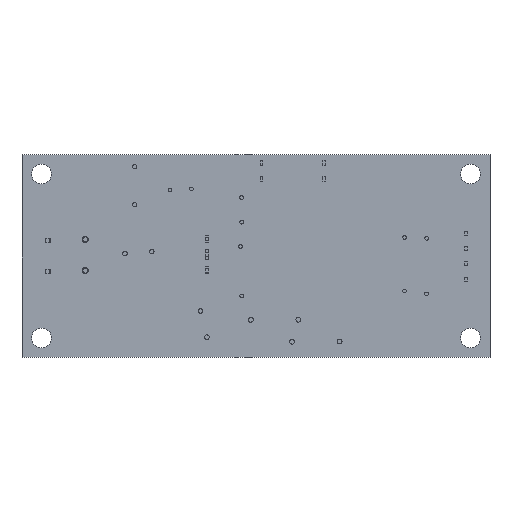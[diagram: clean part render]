
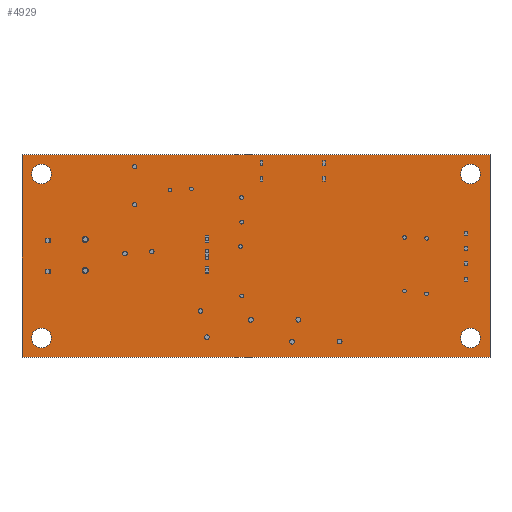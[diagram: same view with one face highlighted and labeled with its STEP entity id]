
A CAD part, top view. The second image highlights one B-rep face of the part: STEP entity #4929.
In plain terms, the highlighted planar face has unit normal (0, 0, 1) as drawn and (0, 0, -1) by its records, which use the part's own axes.
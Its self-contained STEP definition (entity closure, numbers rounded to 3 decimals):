
#1 = DIRECTION ( 'NONE',  ( 1., 0., 0. ) ) ;
#131 = DIRECTION ( 'NONE',  ( 1., 0., 0. ) ) ;
#190 = CARTESIAN_POINT ( 'NONE',  ( 0., 33.02, -1.2 ) ) ;
#290 = CIRCLE ( 'NONE', #20986, 0.508 ) ;
#536 = CIRCLE ( 'NONE', #26616, 0.508 ) ;
#538 = DIRECTION ( 'NONE',  ( 0., 0., 1. ) ) ;
#683 = AXIS2_PLACEMENT_3D ( 'NONE', #12300, #1185, #20895 ) ;
#858 = AXIS2_PLACEMENT_3D ( 'NONE', #3227, #9312, #7194 ) ;
#945 = ORIENTED_EDGE ( 'NONE', *, *, #5554, .T. ) ;
#953 = DIRECTION ( 'NONE',  ( 1., 0., 0. ) ) ;
#1040 = ORIENTED_EDGE ( 'NONE', *, *, #26672, .T. ) ;
#1051 = VERTEX_POINT ( 'NONE', #2622 ) ;
#1058 = CARTESIAN_POINT ( 'NONE',  ( 71.425, 29.845, -1.2 ) ) ;
#1185 = DIRECTION ( 'NONE',  ( 0., 0., 1. ) ) ;
#1293 = EDGE_LOOP ( 'NONE', ( #20806, #4787 ) ) ;
#1822 = EDGE_CURVE ( 'NONE', #16216, #3031, #26514, .T. ) ;
#2323 = AXIS2_PLACEMENT_3D ( 'NONE', #4765, #12808, #21398 ) ;
#2325 = CARTESIAN_POINT ( 'NONE',  ( 76.2, 0., -1.2 ) ) ;
#2559 = CIRCLE ( 'NONE', #22354, 1.6 ) ;
#2622 = CARTESIAN_POINT ( 'NONE',  ( 71.425, 3.175, -1.2 ) ) ;
#2693 = FACE_BOUND ( 'NONE', #1293, .T. ) ;
#2980 = VECTOR ( 'NONE', #6145, 1000. ) ;
#3031 = VERTEX_POINT ( 'NONE', #14582 ) ;
#3227 = CARTESIAN_POINT ( 'NONE',  ( 73.025, 29.845, -1.2 ) ) ;
#3244 = CARTESIAN_POINT ( 'NONE',  ( 76.2, 33.02, -1.2 ) ) ;
#3679 = EDGE_CURVE ( 'NONE', #19147, #27805, #4271, .T. ) ;
#3682 = CARTESIAN_POINT ( 'NONE',  ( 10.798, 18.887, -1.2 ) ) ;
#3761 = DIRECTION ( 'NONE',  ( 0., 0., 1. ) ) ;
#3997 = CARTESIAN_POINT ( 'NONE',  ( 76.2, 33.02, -1.2 ) ) ;
#4271 = CIRCLE ( 'NONE', #15606, 1.6 ) ;
#4414 = ORIENTED_EDGE ( 'NONE', *, *, #17758, .F. ) ;
#4505 = VERTEX_POINT ( 'NONE', #21354 ) ;
#4673 = EDGE_LOOP ( 'NONE', ( #945, #8509 ) ) ;
#4675 = VERTEX_POINT ( 'NONE', #1058 ) ;
#4765 = CARTESIAN_POINT ( 'NONE',  ( 73.025, 29.845, -1.2 ) ) ;
#4787 = ORIENTED_EDGE ( 'NONE', *, *, #27685, .T. ) ;
#4803 = FACE_BOUND ( 'NONE', #23567, .T. ) ;
#4908 = DIRECTION ( 'NONE',  ( 0., 0., 1. ) ) ;
#4929 = ADVANCED_FACE ( 'NONE', ( #4803, #2693, #9164, #13832, #5211, #22130, #26352 ), #7061, .T. ) ;
#5151 = EDGE_CURVE ( 'NONE', #26862, #21378, #290, .T. ) ;
#5211 = FACE_BOUND ( 'NONE', #10361, .T. ) ;
#5554 = EDGE_CURVE ( 'NONE', #14079, #1051, #2559, .T. ) ;
#5813 = AXIS2_PLACEMENT_3D ( 'NONE', #22514, #4908, #953 ) ;
#6145 = DIRECTION ( 'NONE',  ( 1., 0., 0. ) ) ;
#6454 = DIRECTION ( 'NONE',  ( 0., 0., 1. ) ) ;
#6466 = VERTEX_POINT ( 'NONE', #11384 ) ;
#6563 = CARTESIAN_POINT ( 'NONE',  ( 10.29, 18.887, -1.2 ) ) ;
#6776 = CARTESIAN_POINT ( 'NONE',  ( 0., 0., -1.2 ) ) ;
#7061 = PLANE ( 'NONE',  #17854 ) ;
#7194 = DIRECTION ( 'NONE',  ( 1., 0., 0. ) ) ;
#7308 = ORIENTED_EDGE ( 'NONE', *, *, #27688, .T. ) ;
#7323 = DIRECTION ( 'NONE',  ( 0., 0., 1. ) ) ;
#7591 = CIRCLE ( 'NONE', #858, 1.6 ) ;
#7670 = EDGE_LOOP ( 'NONE', ( #1040, #7308 ) ) ;
#7672 = ORIENTED_EDGE ( 'NONE', *, *, #9115, .F. ) ;
#8509 = ORIENTED_EDGE ( 'NONE', *, *, #27094, .T. ) ;
#8559 = EDGE_CURVE ( 'NONE', #27805, #19147, #13367, .T. ) ;
#9030 = DIRECTION ( 'NONE',  ( -1., 0., 0. ) ) ;
#9115 = EDGE_CURVE ( 'NONE', #14312, #4505, #25669, .T. ) ;
#9164 = FACE_BOUND ( 'NONE', #27759, .T. ) ;
#9312 = DIRECTION ( 'NONE',  ( 0., 0., 1. ) ) ;
#9318 = CARTESIAN_POINT ( 'NONE',  ( 3.175, 3.175, -1.2 ) ) ;
#10361 = EDGE_LOOP ( 'NONE', ( #23674, #26096 ) ) ;
#10590 = DIRECTION ( 'NONE',  ( 0., 1., 0. ) ) ;
#10750 = VERTEX_POINT ( 'NONE', #190 ) ;
#11384 = CARTESIAN_POINT ( 'NONE',  ( 10.798, 13.807, -1.2 ) ) ;
#11507 = CARTESIAN_POINT ( 'NONE',  ( 74.625, 3.175, -1.2 ) ) ;
#11751 = VERTEX_POINT ( 'NONE', #25115 ) ;
#12300 = CARTESIAN_POINT ( 'NONE',  ( 10.29, 13.807, -1.2 ) ) ;
#12396 = AXIS2_PLACEMENT_3D ( 'NONE', #25312, #3761, #22790 ) ;
#12760 = CARTESIAN_POINT ( 'NONE',  ( 76.2, 0., -1.2 ) ) ;
#12777 = DIRECTION ( 'NONE',  ( 1., 0., 0. ) ) ;
#12808 = DIRECTION ( 'NONE',  ( 0., 0., 1. ) ) ;
#12855 = CIRCLE ( 'NONE', #683, 0.508 ) ;
#13305 = DIRECTION ( 'NONE',  ( 0., 0., 1. ) ) ;
#13350 = DIRECTION ( 'NONE',  ( 0., 0., 1. ) ) ;
#13367 = CIRCLE ( 'NONE', #16967, 1.6 ) ;
#13832 = FACE_BOUND ( 'NONE', #7670, .T. ) ;
#13846 = LINE ( 'NONE', #3244, #20618 ) ;
#14079 = VERTEX_POINT ( 'NONE', #11507 ) ;
#14312 = VERTEX_POINT ( 'NONE', #2325 ) ;
#14389 = CIRCLE ( 'NONE', #5813, 1.6 ) ;
#14582 = CARTESIAN_POINT ( 'NONE',  ( 4.775, 3.175, -1.2 ) ) ;
#14624 = CARTESIAN_POINT ( 'NONE',  ( 1.575, 29.845, -1.2 ) ) ;
#15352 = CARTESIAN_POINT ( 'NONE',  ( 3.175, 29.845, -1.2 ) ) ;
#15606 = AXIS2_PLACEMENT_3D ( 'NONE', #15352, #538, #23922 ) ;
#15773 = CARTESIAN_POINT ( 'NONE',  ( 4.775, 29.845, -1.2 ) ) ;
#15900 = VECTOR ( 'NONE', #10590, 1000. ) ;
#16149 = ORIENTED_EDGE ( 'NONE', *, *, #3679, .T. ) ;
#16216 = VERTEX_POINT ( 'NONE', #21297 ) ;
#16739 = CIRCLE ( 'NONE', #21227, 0.508 ) ;
#16967 = AXIS2_PLACEMENT_3D ( 'NONE', #23613, #13350, #12777 ) ;
#17183 = CIRCLE ( 'NONE', #2323, 1.6 ) ;
#17356 = CIRCLE ( 'NONE', #12396, 1.6 ) ;
#17581 = DIRECTION ( 'NONE',  ( 0., 0., 1. ) ) ;
#17618 = DIRECTION ( 'NONE',  ( 0., -1., 0. ) ) ;
#17639 = DIRECTION ( 'NONE',  ( 0., 0., -1. ) ) ;
#17741 = CARTESIAN_POINT ( 'NONE',  ( 10.29, 13.807, -1.2 ) ) ;
#17758 = EDGE_CURVE ( 'NONE', #10750, #11751, #25639, .T. ) ;
#17854 = AXIS2_PLACEMENT_3D ( 'NONE', #6776, #17639, #9030 ) ;
#17952 = ORIENTED_EDGE ( 'NONE', *, *, #18726, .F. ) ;
#18700 = CARTESIAN_POINT ( 'NONE',  ( 74.625, 29.845, -1.2 ) ) ;
#18726 = EDGE_CURVE ( 'NONE', #4505, #10750, #13846, .T. ) ;
#18909 = CARTESIAN_POINT ( 'NONE',  ( 9.782, 13.807, -1.2 ) ) ;
#19147 = VERTEX_POINT ( 'NONE', #14624 ) ;
#19427 = CARTESIAN_POINT ( 'NONE',  ( 9.782, 18.887, -1.2 ) ) ;
#19847 = CARTESIAN_POINT ( 'NONE',  ( 10.29, 18.887, -1.2 ) ) ;
#20229 = AXIS2_PLACEMENT_3D ( 'NONE', #9318, #7323, #26502 ) ;
#20350 = VERTEX_POINT ( 'NONE', #18700 ) ;
#20618 = VECTOR ( 'NONE', #22145, 1000. ) ;
#20806 = ORIENTED_EDGE ( 'NONE', *, *, #23500, .T. ) ;
#20895 = DIRECTION ( 'NONE',  ( 1., 0., 0. ) ) ;
#20940 = LINE ( 'NONE', #12760, #2980 ) ;
#20986 = AXIS2_PLACEMENT_3D ( 'NONE', #6563, #17581, #24734 ) ;
#21227 = AXIS2_PLACEMENT_3D ( 'NONE', #19847, #25898, #1 ) ;
#21297 = CARTESIAN_POINT ( 'NONE',  ( 1.575, 3.175, -1.2 ) ) ;
#21354 = CARTESIAN_POINT ( 'NONE',  ( 76.2, 33.02, -1.2 ) ) ;
#21378 = VERTEX_POINT ( 'NONE', #3682 ) ;
#21398 = DIRECTION ( 'NONE',  ( 1., 0., 0. ) ) ;
#21778 = EDGE_CURVE ( 'NONE', #3031, #16216, #17356, .T. ) ;
#21806 = ORIENTED_EDGE ( 'NONE', *, *, #27640, .T. ) ;
#22130 = FACE_BOUND ( 'NONE', #4673, .T. ) ;
#22145 = DIRECTION ( 'NONE',  ( -1., 0., 0. ) ) ;
#22354 = AXIS2_PLACEMENT_3D ( 'NONE', #27814, #13305, #25976 ) ;
#22514 = CARTESIAN_POINT ( 'NONE',  ( 73.025, 3.175, -1.2 ) ) ;
#22779 = EDGE_LOOP ( 'NONE', ( #7672, #27383, #4414, #17952 ) ) ;
#22790 = DIRECTION ( 'NONE',  ( 1., 0., 0. ) ) ;
#23500 = EDGE_CURVE ( 'NONE', #6466, #26339, #12855, .T. ) ;
#23567 = EDGE_LOOP ( 'NONE', ( #21806, #27480 ) ) ;
#23613 = CARTESIAN_POINT ( 'NONE',  ( 3.175, 29.845, -1.2 ) ) ;
#23663 = CARTESIAN_POINT ( 'NONE',  ( 0., 33.02, -1.2 ) ) ;
#23674 = ORIENTED_EDGE ( 'NONE', *, *, #21778, .T. ) ;
#23922 = DIRECTION ( 'NONE',  ( 1., 0., 0. ) ) ;
#24145 = EDGE_CURVE ( 'NONE', #11751, #14312, #20940, .T. ) ;
#24619 = VECTOR ( 'NONE', #17618, 1000. ) ;
#24734 = DIRECTION ( 'NONE',  ( 1., 0., 0. ) ) ;
#25115 = CARTESIAN_POINT ( 'NONE',  ( 0., 0., -1.2 ) ) ;
#25312 = CARTESIAN_POINT ( 'NONE',  ( 3.175, 3.175, -1.2 ) ) ;
#25551 = ORIENTED_EDGE ( 'NONE', *, *, #8559, .T. ) ;
#25639 = LINE ( 'NONE', #23663, #24619 ) ;
#25669 = LINE ( 'NONE', #3997, #15900 ) ;
#25898 = DIRECTION ( 'NONE',  ( 0., 0., 1. ) ) ;
#25976 = DIRECTION ( 'NONE',  ( 1., 0., 0. ) ) ;
#26096 = ORIENTED_EDGE ( 'NONE', *, *, #1822, .T. ) ;
#26339 = VERTEX_POINT ( 'NONE', #18909 ) ;
#26352 = FACE_OUTER_BOUND ( 'NONE', #22779, .T. ) ;
#26502 = DIRECTION ( 'NONE',  ( 1., 0., 0. ) ) ;
#26514 = CIRCLE ( 'NONE', #20229, 1.6 ) ;
#26616 = AXIS2_PLACEMENT_3D ( 'NONE', #17741, #6454, #131 ) ;
#26672 = EDGE_CURVE ( 'NONE', #20350, #4675, #7591, .T. ) ;
#26862 = VERTEX_POINT ( 'NONE', #19427 ) ;
#27094 = EDGE_CURVE ( 'NONE', #1051, #14079, #14389, .T. ) ;
#27383 = ORIENTED_EDGE ( 'NONE', *, *, #24145, .F. ) ;
#27480 = ORIENTED_EDGE ( 'NONE', *, *, #5151, .T. ) ;
#27640 = EDGE_CURVE ( 'NONE', #21378, #26862, #16739, .T. ) ;
#27685 = EDGE_CURVE ( 'NONE', #26339, #6466, #536, .T. ) ;
#27688 = EDGE_CURVE ( 'NONE', #4675, #20350, #17183, .T. ) ;
#27759 = EDGE_LOOP ( 'NONE', ( #25551, #16149 ) ) ;
#27805 = VERTEX_POINT ( 'NONE', #15773 ) ;
#27814 = CARTESIAN_POINT ( 'NONE',  ( 73.025, 3.175, -1.2 ) ) ;
